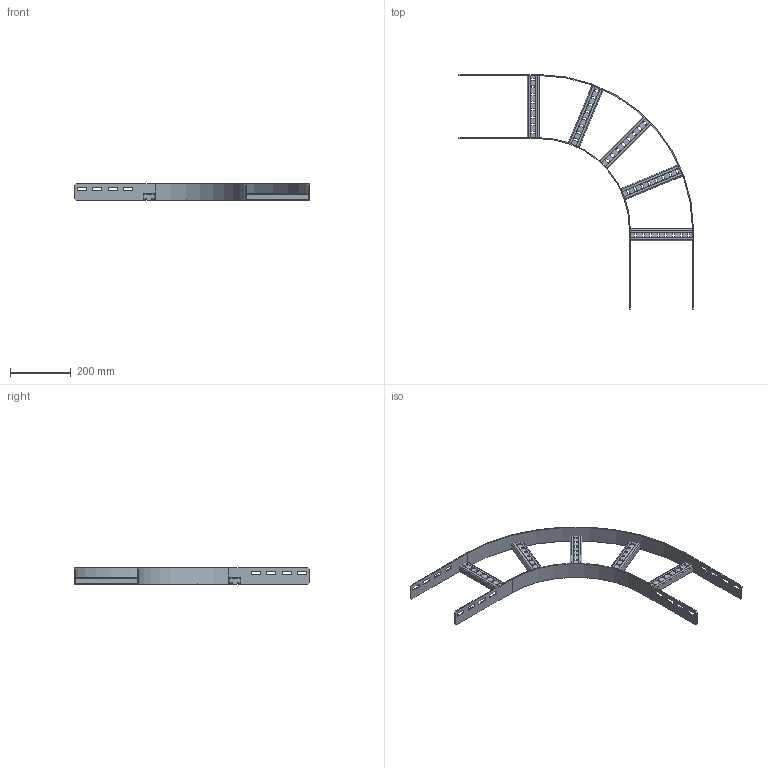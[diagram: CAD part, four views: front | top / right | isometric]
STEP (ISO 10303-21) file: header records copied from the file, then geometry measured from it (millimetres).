
FILE_DESCRIPTION(('Creo Elements/Direct Modeling STEP Export'),'2;1');
FILE_NAME('//pserver/office/EK/ME10-3D/3D-output/WPHB06-20-90-30-HDG.stp','2019-08-14T 9:46:10',(''),(''),'PTC Creo Elements/Direct Modeling STEP processor for AP214 (Solid Model)','PTC Creo Elements/Direct Modeling 19.0C 15-Aug-2015 (C) Parametric Technology GmbH','');
FILE_SCHEMA(('AUTOMOTIVE_DESIGN { 1 0 10303 214 1 1 1 1 }'));
Length unit declared in the file: millimetre
Products named in the file (4): WPHBA_60-20-90-300; WPHBI_60-300; WPHBS20; WPHB06-20-90-30-HDG
Assembly tree (7 placements, depth 2):
  WPHB06-20-90-30-HDG
    WPHBS20  x5
    WPHBI_60-300
    WPHBA_60-20-90-300
Bounding box: 773 x 773 x 55 mm (x, y, z)
Volume: 516361.5 mm3; surface area: 469587.6 mm2
Topology: 7 solids, 7 shells, 452 faces, 1314 edges, 876 vertices
Faces by surface type: plane 278, cylinder 174
Entity records: 5587 total; most frequent: CARTESIAN_POINT 962, ORIENTED_EDGE 948, DIRECTION 894, EDGE_CURVE 474, VECTOR 398, LINE 398, VERTEX_POINT 316, AXIS2_PLACEMENT_3D 248
